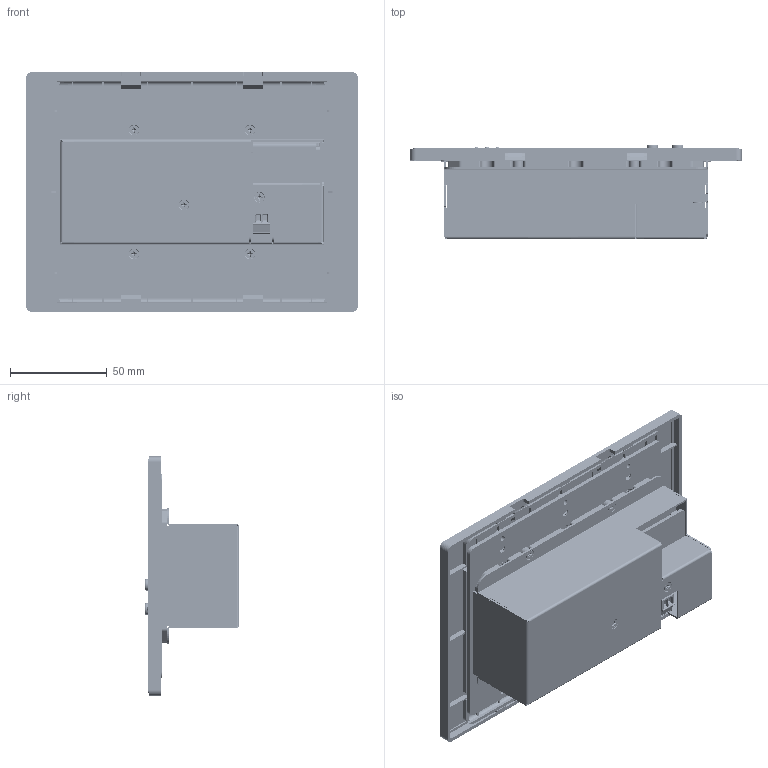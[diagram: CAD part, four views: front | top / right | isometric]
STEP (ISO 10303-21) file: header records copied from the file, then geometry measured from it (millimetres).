
FILE_DESCRIPTION((''),'2;1');
FILE_NAME('IPD6000W-US-U-A20_ASM','2023-05-04T',('Caoheng'),(''),'PRO/ENGINEER BY PARAMETRIC TECHNOLOGY CORPORATION, 2010280','PRO/ENGINEER BY PARAMETRIC TECHNOLOGY CORPORATION, 2010280','');
FILE_SCHEMA(('AUTOMOTIVE_DESIGN_CC2 { 1 2 10303 214 -1 1 5 2 }'));
Products named in the file (66): IPD6000W-000-PCBA-1_51; HDMI_H000051S019S0_17; MANIFOLD_SOLID_BREP_6581; MANIFOLD_SOLID_BREP_6809; MANIFOLD_SOLID_BREP_7037; MANIFOLD_SOLID_BREP_7265; MANIFOLD_SOLID_BREP_7493; KFC_J0201K2180800_13_ASM; PJ-3201-L6S-Y_23; B060010SUBW00_19; USB-ZHIBIAN_24; IPD6000W-US-U-000-PCBA-1_ASM_55_ASM; IPD6000W-000-PCBA-2_67; RJ45_H0600000VD000_16; RJ45-PCBA_ASM_30_ASM; IPD6000W-US-U-000-PCBA-2_ASM_48_ASM; IPD6000W-000-PCBA-3_115; MANIFOLD_SOLID_BREP_34830; MANIFOLD_SOLID_BREP_35321; MANIFOLD_SOLID_BREP_35812; MANIFOLD_SOLID_BREP_36303; MANIFOLD_SOLID_BREP_36794; MANIFOLD_SOLID_BREP_37289; MANIFOLD_SOLID_BREP_37784; RJ45_H270GT5ZZ0023_24_ASM; PHOENIX2-3_5_H140210FVD001_16; 2PIN_PLUG_H_14; J110125250501-L25W25H5-HEISE_12; U218-5W-15_14; U80-DAORGZ_15; PBZ_39; IPD6000W-US-U-000-PCBA-3_ASM_10_ASM; IPD6000WP-000-PCB-POE_70; POE-5W_11; IPD6000W-US-U-000-PCBA-POE_ASM__ASM; IPD6000W-EU-U-000-PCBA_ASM_44_ASM; 3GANG-COVER-OUT_16; 3GANG-COVER-IN_11; 3GANG-COVER_ASM_12_ASM; IPD6000W-US-U-000-COVER_28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
Assembly tree (111 placements, depth 6):
  IPD6000W-US-U-A20_ASM
    IPD6000W-US-U-000_ASM_95_ASM
      IPD6000W-EU-U-000-PCBA_ASM_44_ASM
        IPD6000W-US-U-000-PCBA-1_ASM_55_ASM
          IPD6000W-000-PCBA-1_51
          HDMI_H000051S019S0_17
          KFC_J0201K2180800_13_ASM
            MANIFOLD_SOLID_BREP_6581
            MANIFOLD_SOLID_BREP_6809
            MANIFOLD_SOLID_BREP_7037
            MANIFOLD_SOLID_BREP_7265
            MANIFOLD_SOLID_BREP_7493
          PJ-3201-L6S-Y_23  x4
          B060010SUBW00_19  x3
          USB-ZHIBIAN_24  x2
        IPD6000W-US-U-000-PCBA-2_ASM_48_ASM
          IPD6000W-000-PCBA-2_67
          RJ45-PCBA_ASM_30_ASM
            RJ45_H0600000VD000_16
        IPD6000W-US-U-000-PCBA-3_ASM_10_ASM
          IPD6000W-000-PCBA-3_115
          RJ45_H270GT5ZZ0023_24_ASM
            MANIFOLD_SOLID_BREP_34830
            MANIFOLD_SOLID_BREP_35321
            MANIFOLD_SOLID_BREP_35812
            MANIFOLD_SOLID_BREP_36303
            MANIFOLD_SOLID_BREP_36794
            MANIFOLD_SOLID_BREP_37289
            MANIFOLD_SOLID_BREP_37784
          PHOENIX2-3_5_H140210FVD001_16
          2PIN_PLUG_H_14
          J110125250501-L25W25H5-HEISE_12
          U218-5W-15_14
          U80-DAORGZ_15
          PBZ_39
        IPD6000W-US-U-000-PCBA-POE_ASM__ASM
          IPD6000WP-000-PCB-POE_70
          POE-5W_11
      3GANG-COVER_ASM_12_ASM
        3GANG-COVER-OUT_16
        3GANG-COVER-IN_11
      IPD6000W-US-U-000-COVER-ALL_ASM_ASM
        IPD6000W-US-U-000-COVER_ASM_17_ASM
          IPD6000W-US-U-000-COVER_28
          BOSS-M3X6_20  x8
          BOSS-M3X5_12  x4
        IPD6000W-US-U-000-COVER-US-R_63
        IPD6000W-US-U-000-COVER-US-M_36
        IPD6000W-US-U-000-COVER-US-L_73
      IPD6000W-US-U-000-BASE_ASM_33_ASM
        IPD6000W-US-U-000-BASE_179
      SCREW_ASM_89_ASM
        TONGZHU-640_14  x14
        M140000M3L505_M3_L5_SILVERY_14  x4
        TONGZHU-625_17  x3
        M140000M3L503_M3_L5_BLACK_14  x2
        TONGZHU-1805_20
      IPD6000WP-000-BKT-US_ASM_23_ASM
        IPD6000W-US-U-000-BKT-US-1_116
        IPD6000W-US-U-000-BKT-US-2_132
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Bounding box: 171.5 x 48.5 x 123.9 mm (x, y, z)
Volume: 214078.8 mm3; surface area: 272013 mm2
Topology: 94 solids, 94 shells, 5024 faces, 13622 edges, 9009 vertices
Faces by surface type: plane 2786, cylinder 1524, cone 318, bspline 257, torus 111, sphere 16, extrusion 12
Entity records: 148439 total; most frequent: CARTESIAN_POINT 29534, DIRECTION 20218, ORIENTED_EDGE 19866, EDGE_CURVE 9933, PRESENTATION_STYLE_ASSIGNMENT 7345, STYLED_ITEM 7308, CURVE_STYLE 7258, AXIS2_PLACEMENT_3D 6771
